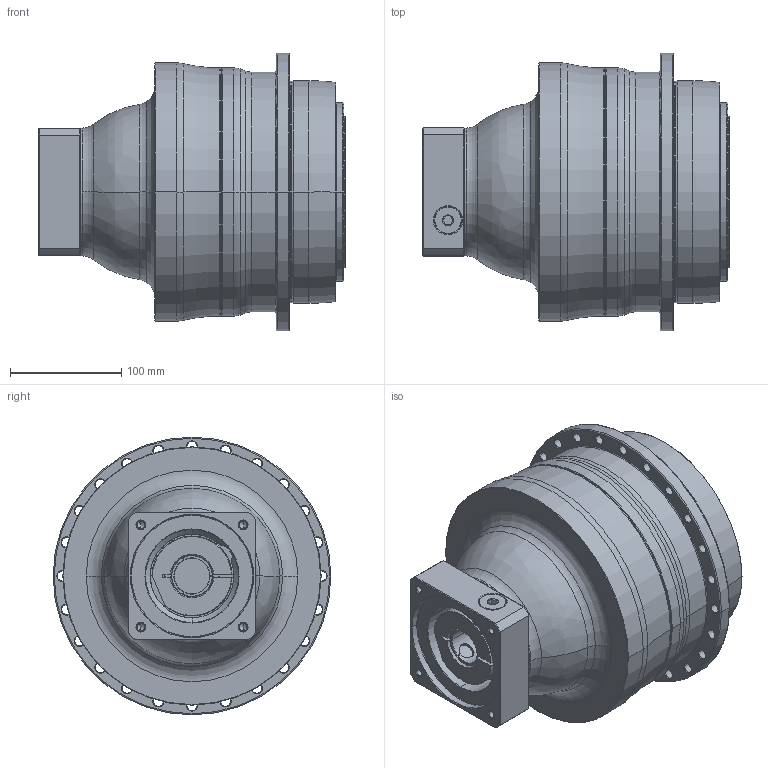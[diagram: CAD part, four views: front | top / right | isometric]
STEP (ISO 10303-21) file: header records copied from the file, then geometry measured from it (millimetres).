
FILE_DESCRIPTION((''),'2;1');
FILE_NAME('AP200_3ST_32-P0409710201_ASM','2018-06-06T',('d01226'),(''),'PRO/ENGINEER BY PARAMETRIC TECHNOLOGY CORPORATION, 2008410','PRO/ENGINEER BY PARAMETRIC TECHNOLOGY CORPORATION, 2008410','');
FILE_SCHEMA(('CONFIG_CONTROL_DESIGN'));
Length unit declared in the file: millimetre
Products named in the file (9): P0278601003; P0359601103; P1366600301; P0503700010; P0912453001; P1211600001; P0409710201; 21711418017; AP200_3ST_32-P0409710201_ASM
Assembly tree (8 placements, depth 2):
  AP200_3ST_32-P0409710201_ASM
    P0278601003
    P0359601103
    P1366600301
    P0503700010
    P0912453001
    P1211600001
    P0409710201
    21711418017
Bounding box: 275 x 249.5 x 249.5 mm (x, y, z)
Volume: 7539657.6 mm3; surface area: 518722.7 mm2
Topology: 9 solids, 34 shells, 643 faces, 1545 edges, 954 vertices
Faces by surface type: cylinder 267, cone 177, plane 106, torus 77, bspline 16
Entity records: 23949 total; most frequent: CARTESIAN_POINT 8195, DIRECTION 3619, ORIENTED_EDGE 2972, AXIS2_PLACEMENT_3D 1555, EDGE_CURVE 1537, VERTEX_POINT 954, CIRCLE 901, EDGE_LOOP 779
